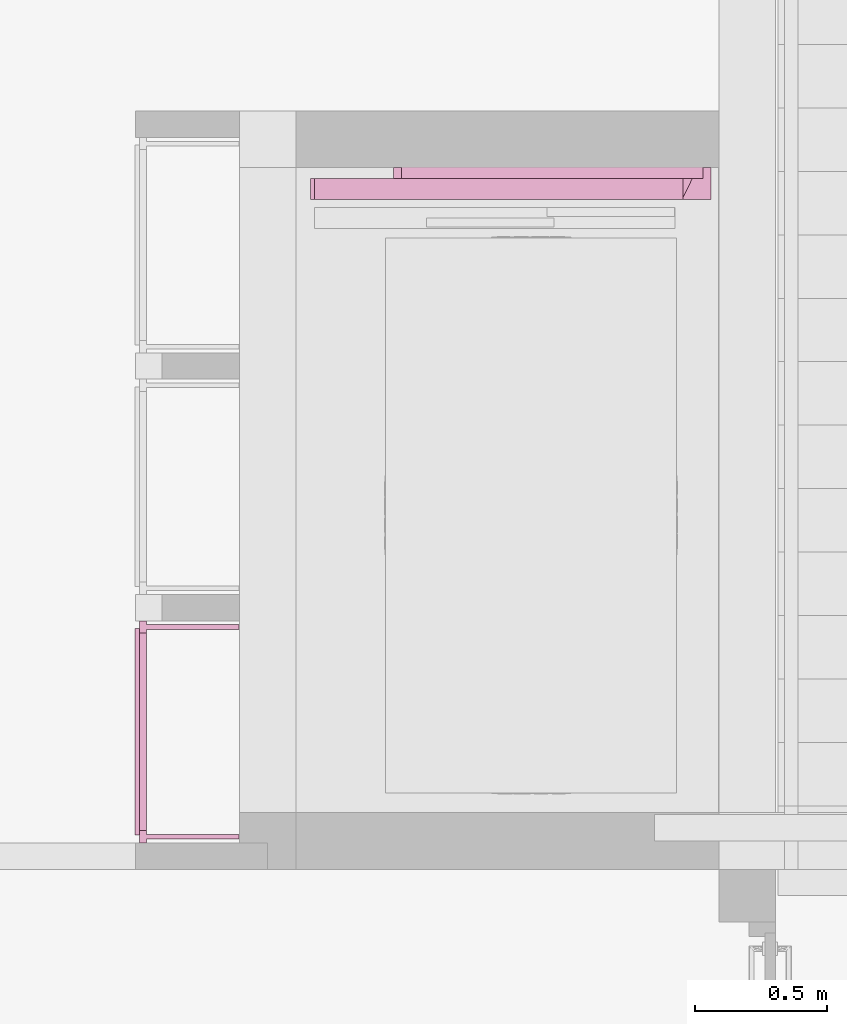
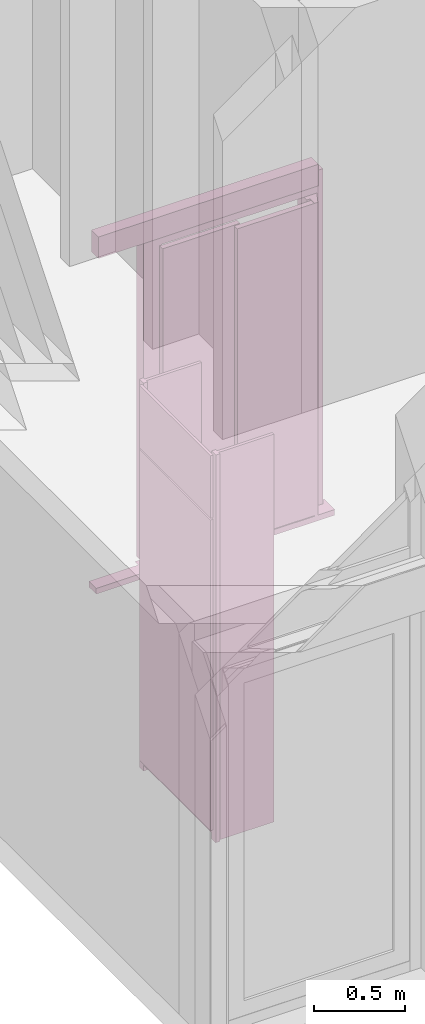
# One storey, part 99 of 117: 1 furnishing, 1 transport element.
"""IFC2X3 building model written with IfcOpenShell, lengths in millimetres."""

from ifc_helpers import new_model, entity, si_unit, converted_unit, derived_unit, money_unit, direction, frame, origin_with_axes, place, context, subcontext, project, spatial, faceted_brep, source, transform, mapped, material, type_object, type_shapes, element, save


model = new_model("IFC2X3")

# Units and contexts
model_context = context("Model", 3, precision=0.01, world=origin_with_axes(), true_north=direction((0.0, 1.0)))
body_context = subcontext(model_context, "Body", "Model", "MODEL_VIEW")
ifc_project = project(units=[si_unit("LENGTHUNIT", "METRE", prefix="MILLI"), si_unit("AREAUNIT", "SQUARE_METRE"), si_unit("VOLUMEUNIT", "CUBIC_METRE"), converted_unit("PLANEANGLEUNIT", "DEGREE", entity("IfcPlaneAngleMeasure", 0.0174532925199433), si_unit("PLANEANGLEUNIT", "RADIAN"), dimensions=[0, 0, 0, 0, 0, 0, 0]), money_unit("EUR"), converted_unit("TIMEUNIT", "Year", entity("IfcTimeMeasure", 31557600.0), si_unit("TIMEUNIT", "SECOND"), dimensions=[0, 0, 1, 0, 0, 0, 0]), si_unit("MASSUNIT", "GRAM", prefix="KILO"), si_unit("THERMODYNAMICTEMPERATUREUNIT", "DEGREE_CELSIUS"), si_unit("LUMINOUSINTENSITYUNIT", "LUMEN"), si_unit("ENERGYUNIT", "JOULE", prefix="MEGA"), derived_unit("THERMALCONDUCTANCEUNIT", [(si_unit("POWERUNIT", "WATT"), 1), (si_unit("LENGTHUNIT", "METRE"), -1), (si_unit("THERMODYNAMICTEMPERATUREUNIT", "KELVIN"), -1)]), derived_unit("SPECIFICHEATCAPACITYUNIT", [(si_unit("ENERGYUNIT", "JOULE"), 1), (si_unit("MASSUNIT", "GRAM", prefix="KILO"), -1), (si_unit("THERMODYNAMICTEMPERATUREUNIT", "KELVIN"), -1)]), derived_unit("MASSDENSITYUNIT", [(si_unit("MASSUNIT", "GRAM", prefix="KILO"), 1), (si_unit("VOLUMEUNIT", "CUBIC_METRE"), -1)])], contexts=[model_context])

# Site, building, storey
site_placement = place(None, origin_with_axes())
site = spatial("IfcSite", under=ifc_project, at=site_placement, Name="Site", CompositionType="ELEMENT")
building_placement = place(site_placement, origin_with_axes())
building = spatial("IfcBuilding", under=site, at=building_placement, Name="Naam gebouw", CompositionType="ELEMENT")
storey_placement = place(building_placement, frame((0.0, 0.0, 4150.0), z_axis=(0.0, 0.0, 1.0), x_axis=(1.0, 0.0, 0.0)))
storey = spatial("IfcBuildingStorey", under=building, at=storey_placement, Name="1e verdieping N", CompositionType="ELEMENT", Elevation=4150.0)

# Furnishing
ifc_material_1 = material(Name="houtfineer")
furniture_type = type_object("IfcFurnitureType", Name="NLRS_60_CASE_werkkast_algemeen_WID:meterkast_algemeen_lxbxh 840x350x2600", AssemblyPlace="NOTDEFINED")
shared_shape_1 = source(origin_with_axes(), body_context, "Body", "Brep", [
    faceted_brep([(-391.2961033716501, 0.0, 0.0), (-391.2961033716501, -359.0000000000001, 0.0), (-391.2961033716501, -359.0000000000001, 2600.0), (-391.2961033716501, 0.0, 2600.0), (-373.29967356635, 0.0, 0.0), (-373.29967356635, -359.0000000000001, 0.0), (-373.29967356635, -359.0000000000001, 2600.0), (-373.29967356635, 0.0, 2600.0)], [[[0, 1, 2, 3]], [[0, 4, 5, 1]], [[1, 5, 6, 2]], [[3, 2, 6, 7]], [[4, 0, 3, 7]], [[5, 4, 7, 6]]]),
    faceted_brep([(-376.29967356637, -393.0000000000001, 2164.0), (405.70032643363, -393.0000000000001, 2164.0), (405.70032643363, -393.0000000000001, 2583.0), (-376.29967356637, -393.0000000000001, 2583.0), (-376.29967356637, -377.0000000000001, 2164.0), (405.70032643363, -377.0000000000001, 2164.0), (405.70032643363, -377.0000000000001, 2583.0), (-376.29967356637, -377.0000000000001, 2583.0)], [[[0, 1, 2, 3]], [[0, 4, 5, 1]], [[1, 5, 6, 2]], [[3, 2, 6, 7]], [[4, 0, 3, 7]], [[5, 4, 7, 6]]]),
    faceted_brep([(402.70211153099, -359.0000000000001, 0.0), (420.69854133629, -359.0000000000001, 0.0), (420.69854133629, -359.0000000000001, 2600.0), (402.70211153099, -359.0000000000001, 2600.0), (402.70211153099, 0.0, 0.0), (420.69854133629, 0.0, 0.0), (420.69854133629, 0.0, 2600.0), (402.70211153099, 0.0, 2600.0)], [[[0, 1, 2, 3]], [[0, 4, 5, 1]], [[1, 5, 6, 2]], [[3, 2, 6, 7]], [[4, 0, 3, 7]], [[5, 4, 7, 6]]]),
    faceted_brep([(434.70032643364, -377.0000000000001, 0.0), (434.70032643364, -350.0000000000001, 0.0), (434.70032643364, -350.0000000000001, 2600.0), (434.70032643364, -377.0000000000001, 2600.0), (388.70032643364, -377.0000000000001, 0.0), (388.70032643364, -350.0000000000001, 0.0), (402.70211153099, -350.0000000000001, 0.0), (402.70211153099, -359.0000000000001, 0.0), (420.69854133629, -359.0000000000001, 0.0), (420.69854133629, -350.0000000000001, 0.0), (420.69854133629, -350.0000000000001, 2600.0), (420.69854133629, -359.0000000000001, 2600.0), (402.70211153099, -359.0000000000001, 2600.0), (402.70211153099, -350.0000000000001, 2600.0), (388.70032643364, -350.0000000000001, 2600.0), (388.70032643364, -377.0000000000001, 2600.0)], [[[0, 1, 2, 3]], [[0, 4, 5, 6, 7, 8, 9, 1]], [[1, 9, 10, 2]], [[3, 2, 10, 11, 12, 13, 14, 15]], [[4, 0, 3, 15]], [[5, 4, 15, 14]], [[6, 5, 14, 13]], [[7, 6, 13, 12]], [[8, 7, 12, 11]], [[9, 8, 11, 10]]]),
    faceted_brep([(-359.29967356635, -377.0000000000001, 0.0), (-359.29967356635, -350.0000000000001, 0.0), (-359.29967356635, -350.0000000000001, 2600.0), (-359.29967356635, -377.0000000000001, 2600.0), (-405.2996735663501, -377.0000000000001, 0.0), (-405.2996735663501, -350.0000000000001, 0.0), (-391.297888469, -350.0000000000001, 0.0), (-391.297888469, -359.0000000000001, 0.0), (-373.3014586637, -359.0000000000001, 0.0), (-373.3014586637, -350.0000000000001, 0.0), (-373.3014586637, -350.0000000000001, 2600.0), (-373.3014586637, -359.0000000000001, 2600.0), (-391.297888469, -359.0000000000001, 2600.0), (-391.297888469, -350.0000000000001, 2600.0), (-405.2996735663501, -350.0000000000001, 2600.0), (-405.2996735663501, -377.0000000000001, 2600.0)], [[[0, 1, 2, 3]], [[0, 4, 5, 6, 7, 8, 9, 1]], [[1, 9, 10, 2]], [[3, 2, 10, 11, 12, 13, 14, 15]], [[4, 0, 3, 15]], [[5, 4, 15, 14]], [[6, 5, 14, 13]], [[7, 6, 13, 12]], [[8, 7, 12, 11]], [[9, 8, 11, 10]]]),
    faceted_brep([(-376.2996735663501, -393.0000000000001, 69.0), (405.7003264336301, -393.0000000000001, 69.0), (405.7003264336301, -393.0000000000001, 2152.0), (-376.2996735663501, -393.0000000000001, 2152.0), (-376.2996735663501, -377.0000000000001, 69.0), (405.7003264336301, -377.0000000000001, 69.0), (405.7003264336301, -377.0000000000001, 2152.0), (-376.2996735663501, -377.0000000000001, 2152.0)], [[[0, 1, 2, 3]], [[0, 4, 5, 1]], [[1, 5, 6, 2]], [[3, 2, 6, 7]], [[4, 0, 3, 7]], [[5, 4, 7, 6]]]),
    faceted_brep([(-359.29967356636, -377.0000000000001, 2135.0), (-359.29967356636, -350.0000000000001, 2135.0), (388.7003264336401, -350.0000000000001, 2135.0), (388.7003264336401, -377.0000000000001, 2135.0), (-359.29967356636, -377.0000000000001, 2181.0), (-359.29967356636, -350.0000000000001, 2181.0), (-359.29967356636, -350.0000000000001, 2166.99821490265), (-359.29967356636, -359.0000000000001, 2166.99821490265), (-359.29967356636, -359.0000000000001, 2149.00178509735), (-359.29967356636, -350.0000000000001, 2149.00178509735), (388.7003264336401, -350.0000000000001, 2149.00178509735), (388.7003264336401, -359.0000000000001, 2149.00178509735), (388.7003264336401, -359.0000000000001, 2166.99821490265), (388.7003264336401, -350.0000000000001, 2166.99821490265), (388.7003264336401, -350.0000000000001, 2181.0), (388.7003264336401, -377.0000000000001, 2181.0)], [[[0, 1, 2, 3]], [[0, 4, 5, 6, 7, 8, 9, 1]], [[1, 9, 10, 2]], [[3, 2, 10, 11, 12, 13, 14, 15]], [[4, 0, 3, 15]], [[5, 4, 15, 14]], [[6, 5, 14, 13]], [[7, 6, 13, 12]], [[8, 7, 12, 11]], [[9, 8, 11, 10]]]),
    faceted_brep([(-359.29967356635, -377.0000000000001, 40.0), (-359.29967356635, -350.0000000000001, 40.0), (388.7003264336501, -350.0000000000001, 40.0), (388.7003264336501, -377.0000000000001, 40.0), (-359.29967356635, -377.0000000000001, 86.0), (-359.29967356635, -350.0000000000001, 86.0), (-359.29967356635, -350.0000000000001, 71.99821490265), (-359.29967356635, -359.0000000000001, 71.99821490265), (-359.29967356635, -359.0000000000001, 54.00178509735), (-359.29967356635, -350.0000000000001, 54.00178509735), (388.7003264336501, -350.0000000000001, 54.00178509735), (388.7003264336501, -359.0000000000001, 54.00178509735), (388.7003264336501, -359.0000000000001, 71.99821490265), (388.7003264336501, -350.0000000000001, 71.99821490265), (388.7003264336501, -350.0000000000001, 86.0), (388.7003264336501, -377.0000000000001, 86.0)], [[[0, 1, 2, 3]], [[0, 4, 5, 6, 7, 8, 9, 1]], [[1, 9, 10, 2]], [[3, 2, 10, 11, 12, 13, 14, 15]], [[4, 0, 3, 15]], [[5, 4, 15, 14]], [[6, 5, 14, 13]], [[7, 6, 13, 12]], [[8, 7, 12, 11]], [[9, 8, 11, 10]]]),
])
type_shapes(furniture_type, [shared_shape_1])
furnishing_placement = place(storey_placement, frame((31684.00000003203, 34680.61275273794, -3770.00000000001), z_axis=(0.0, 0.0, 1.0), x_axis=(0.0, -1.0, 0.0)))
element("IfcFurnishingElement", 1, at=furnishing_placement, inside=storey, type_object=furniture_type, material=ifc_material_1, Name="NLRS_60_CASE_werkkast_algemeen_WID:meterkast_algemeen_lxbxh 840x350x2600", context=body_context, shape_type="MappedRepresentation", body=[
    mapped(shared_shape_1, transform((0.0, 0.0, 0.0))),
])

# Transport element
ifc_material_2 = material(Name="IFC Building Material")
transport_element_type = type_object("IfcTransportElementType", Name="KONE_LDO_Design_2R_P19:KONE_LDO_Design_2R_P19", PredefinedType="ELEVATOR")
shared_shape_2 = source(origin_with_axes(), body_context, "Body", "Brep", [
    faceted_brep([(-18.25000000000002, -44.44382209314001, 8.5), (-18.25000000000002, -79.44382209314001, 8.5), (-18.25000000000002, -79.44382209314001, 2099.00000000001), (-18.25000000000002, -44.44382209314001, 2099.00000000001), (468.2500000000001, -44.44382209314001, 8.5), (468.2500000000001, -79.44382209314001, 8.5), (468.2500000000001, -79.44382209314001, 2099.00000000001), (468.2500000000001, -44.44382209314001, 2099.00000000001)], [[[0, 1, 2, 3]], [[0, 4, 5, 1]], [[1, 5, 6, 2]], [[3, 2, 6, 7]], [[4, 0, 3, 7]], [[5, 4, 7, 6]]]),
    faceted_brep([(-19.25000000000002, -79.44382209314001, 7.500000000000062), (-19.25000000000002, -79.44382209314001, 2100.0), (-19.25000000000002, -44.44382209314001, 2100.0), (-19.25000000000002, -44.44382209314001, 7.500000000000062), (469.25000692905, -79.44382209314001, 7.500000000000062), (469.25000692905, -79.44382209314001, 2100.0), (468.25001039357, -79.44382209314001, 2099.00000346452), (468.25001039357, -79.44382209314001, 8.499996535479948), (-18.25000346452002, -79.44382209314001, 8.499996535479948), (-18.25000346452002, -79.44382209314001, 2099.00000346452), (469.25000692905, -44.44382209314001, 2100.0), (469.25000692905, -44.44382209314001, 7.500000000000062), (468.25001039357, -44.44382209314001, 2099.00000346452), (-18.25000346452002, -44.44382209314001, 2099.00000346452), (-18.25000346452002, -44.44382209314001, 8.499996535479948), (468.25001039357, -44.44382209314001, 8.499996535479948)], [[[0, 1, 2, 3]], [[0, 4, 5, 1], [6, 7, 8, 9]], [[1, 5, 10, 2]], [[3, 2, 10, 11], [12, 13, 14, 15]], [[4, 0, 3, 11]], [[5, 4, 11, 10]], [[7, 6, 12, 15]], [[8, 7, 15, 14]], [[9, 8, 14, 13]], [[6, 9, 13, 12]]]),
    faceted_brep([(-468.2500000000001, -4.443822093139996, 8.5), (-468.2500000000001, -39.44382209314, 8.5), (-468.2500000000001, -39.44382209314, 2099.00000000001), (-468.2500000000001, -4.443822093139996, 2099.00000000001), (18.25000000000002, -4.443822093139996, 8.5), (18.25000000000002, -39.44382209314, 8.5), (18.25000000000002, -39.44382209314, 2099.00000000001), (18.25000000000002, -4.443822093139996, 2099.00000000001)], [[[0, 1, 2, 3]], [[0, 4, 5, 1]], [[1, 5, 6, 2]], [[3, 2, 6, 7]], [[4, 0, 3, 7]], [[5, 4, 7, 6]]]),
    faceted_brep([(-469.2500000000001, -39.44382209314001, 7.500000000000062), (-469.2500000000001, -39.44382209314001, 2100.0), (-469.2500000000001, -4.443822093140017, 2100.0), (-469.2500000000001, -4.443822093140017, 7.500000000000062), (19.25000692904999, -39.44382209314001, 7.500000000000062), (19.25000692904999, -39.44382209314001, 2100.0), (18.25001039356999, -39.44382209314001, 2099.00000346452), (18.25001039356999, -39.44382209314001, 8.499996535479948), (-468.25000346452, -39.44382209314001, 8.499996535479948), (-468.25000346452, -39.44382209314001, 2099.00000346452), (19.25000692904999, -4.443822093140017, 2100.0), (19.25000692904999, -4.443822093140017, 7.500000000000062), (18.25001039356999, -4.443822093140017, 2099.00000346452), (-468.25000346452, -4.443822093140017, 2099.00000346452), (-468.25000346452, -4.443822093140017, 8.499996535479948), (18.25001039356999, -4.443822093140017, 8.499996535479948)], [[[0, 1, 2, 3]], [[0, 4, 5, 1], [6, 7, 8, 9]], [[1, 5, 10, 2]], [[3, 2, 10, 11], [12, 13, 14, 15]], [[4, 0, 3, 11]], [[5, 4, 11, 10]], [[7, 6, 12, 15]], [[8, 7, 15, 14]], [[9, 8, 14, 13]], [[6, 9, 13, 12]]]),
    faceted_brep([(495.0, -0.9438220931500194, 2210.0), (-900.0, -0.9438220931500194, 2210.0), (-900.0, -0.9438220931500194, 2354.0), (495.0, -0.9438220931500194, 2354.0), (495.0, -79.44382209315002, 2210.0), (-900.0, -79.44382209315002, 2210.0), (-900.0, -79.44382209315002, 2354.0), (495.0, -79.44382209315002, 2354.0)], [[[0, 1, 2, 3]], [[0, 4, 5, 1]], [[1, 5, 6, 2]], [[3, 2, 6, 7]], [[4, 0, 3, 7]], [[5, 4, 7, 6]]]),
    faceted_brep([(570.0000000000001, 75.55617790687, 2100.0), (-570.0000000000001, 75.55617790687, 2100.0), (-570.0000000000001, 75.55617790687, 2250.0), (570.0000000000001, 75.55617790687, 2250.0), (570.0000000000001, 0.5561779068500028, 2100.0), (-570.0000000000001, 0.5561779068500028, 2100.0), (-570.0000000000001, 0.5561779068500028, 2250.0), (570.0000000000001, 0.5561779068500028, 2250.0)], [[[0, 1, 2, 3]], [[0, 4, 5, 1]], [[1, 5, 6, 2]], [[3, 2, 6, 7]], [[4, 0, 3, 7]], [[5, 4, 7, 6]]]),
    faceted_brep([(570.0000000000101, 0.556177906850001, 3.0), (570.0000000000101, 75.55617790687, 3.0), (570.0000000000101, 75.55617790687, 2100.0), (570.0000000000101, 0.556177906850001, 2100.0), (530.1666666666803, 0.556177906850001, 3.0), (491.0000000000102, -79.44382209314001, 3.0), (470.0000000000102, -79.44382209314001, 3.0), (470.0000000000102, -29.44382209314, 3.0), (450.0000000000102, -29.44382209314, 3.0), (450.0000000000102, 75.55617790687, 3.0), (450.0000000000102, 75.55617790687, 2100.0), (450.0000000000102, -29.44382209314, 2100.0), (470.0000000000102, -29.44382209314, 2100.0), (470.0000000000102, -79.44382209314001, 2100.0), (491.0000000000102, -79.44382209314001, 2100.0), (530.1666666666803, 0.556177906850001, 2100.0)], [[[0, 1, 2, 3]], [[0, 4, 5, 6, 7, 8, 9, 1]], [[1, 9, 10, 2]], [[3, 2, 10, 11, 12, 13, 14, 15]], [[4, 0, 3, 15]], [[5, 4, 15, 14]], [[6, 5, 14, 13]], [[7, 6, 13, 12]], [[8, 7, 12, 11]], [[9, 8, 11, 10]]]),
    faceted_brep([(-450.0, 75.55617790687, 3.0), (-570.0000000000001, 75.55617790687, 3.0), (-570.0000000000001, 75.55617790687, 2100.0), (-450.0, 75.55617790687, 2100.0), (-450.0, 0.5561779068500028, 3.0), (-570.0000000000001, 0.5561779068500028, 3.0), (-570.0000000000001, 0.5561779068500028, 2100.0), (-450.0, 0.5561779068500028, 2100.0)], [[[0, 1, 2, 3]], [[0, 4, 5, 1]], [[1, 5, 6, 2]], [[3, 2, 6, 7]], [[4, 0, 3, 7]], [[5, 4, 7, 6]]]),
    faceted_brep([(595.0000000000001, 0.5561779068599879, -34.99999999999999), (-915.0000000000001, 0.5561779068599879, -34.99999999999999), (-915.0000000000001, 0.5561779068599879, 3.000000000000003), (595.0000000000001, 0.5561779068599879, 3.000000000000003), (595.0000000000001, -79.44382209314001, -34.99999999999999), (-915.0000000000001, -79.44382209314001, -34.99999999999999), (-915.0000000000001, -79.44382209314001, 3.000000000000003), (595.0000000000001, -79.44382209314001, 3.000000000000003)], [[[0, 1, 2, 3]], [[0, 4, 5, 1]], [[1, 5, 6, 2]], [[3, 2, 6, 7]], [[4, 0, 3, 7]], [[5, 4, 7, 6]]]),
    faceted_brep([(-450.0, 0.5561779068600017, 0.0), (-450.0, 80.55617790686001, 0.0), (450.0, 80.55617790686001, 0.0), (450.0, 0.5561779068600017, 0.0), (-450.0, 0.5561779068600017, 3.0), (-450.0, 70.55617790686, 3.0), (-450.0, 80.55617790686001, 1.19999999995), (450.0, 80.55617790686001, 1.19999999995), (450.0, 70.55617790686, 3.0), (450.0, 0.5561779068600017, 3.0)], [[[0, 1, 2, 3]], [[0, 4, 5, 6, 1]], [[1, 6, 7, 2]], [[3, 2, 7, 8, 9]], [[4, 0, 3, 9]], [[5, 4, 9, 8]], [[6, 5, 8, 7]]]),
    faceted_brep([(600.0000000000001, 40.55617790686, -2.0), (-600.0000000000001, 40.55617790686, -2.0), (-600.0000000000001, 40.55617790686, 0.0), (600.0000000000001, 40.55617790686, 0.0), (600.0000000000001, -79.44382209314, -2.0), (-600.0000000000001, -79.44382209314, -2.0), (-600.0000000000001, -79.44382209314, 0.0), (600.0000000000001, -79.44382209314, 0.0)], [[[0, 1, 2, 3]], [[0, 4, 5, 1]], [[1, 5, 6, 2]], [[3, 2, 6, 7]], [[4, 0, 3, 7]], [[5, 4, 7, 6]]]),
])
type_shapes(transport_element_type, [shared_shape_2])
transport_element_placement = place(storey_placement, frame((32869.0000000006, 36759.35624842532, -3770.00000000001), z_axis=(0.0, 0.0, 1.0), x_axis=(1.0, 0.0, 0.0)))
element("IfcTransportElement", 2, at=transport_element_placement, inside=storey, type_object=transport_element_type, material=ifc_material_2, Name="KONE_LDO_Design_2R_P19:KONE_LDO_Design_2R_P19", ObjectType="ELEVATOR", context=body_context, shape_type="MappedRepresentation", body=[
    mapped(shared_shape_2, transform((0.0, 0.0, 0.0))),
])

save(model, "model.ifc")
